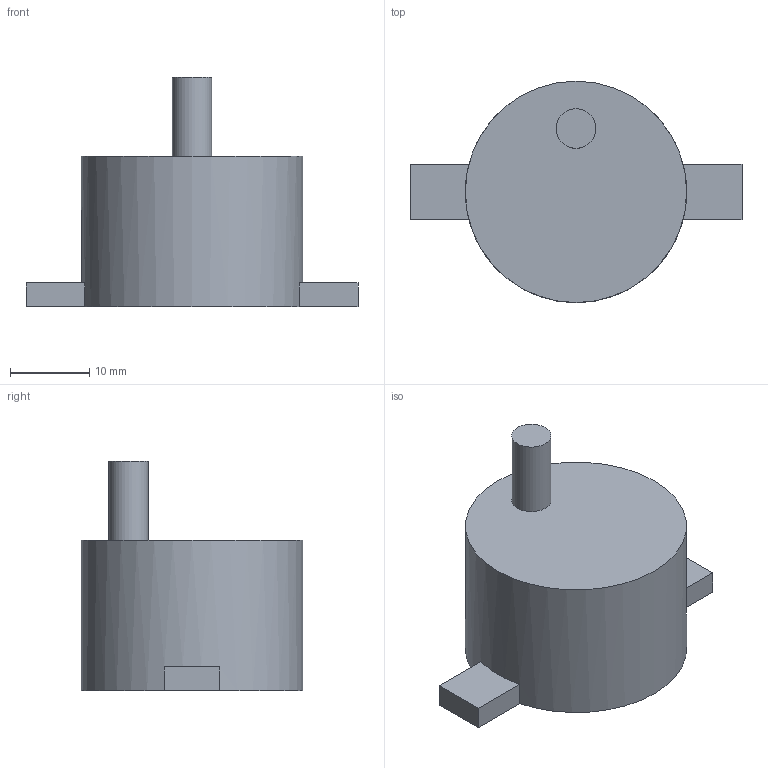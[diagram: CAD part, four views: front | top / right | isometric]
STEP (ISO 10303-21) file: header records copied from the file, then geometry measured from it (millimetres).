
FILE_DESCRIPTION(('Open CASCADE Model'),'2;1');
FILE_NAME('Open CASCADE Shape Model','2026-09-10T23:36:53',('Author'),( 'Open CASCADE'),'Open CASCADE STEP processor 7.9','Open CASCADE 7.9' ,'Unknown');
FILE_SCHEMA(('AUTOMOTIVE_DESIGN { 1 0 10303 214 1 1 1 1 }'));
Length unit declared in the file: millimetre
Products named in the file (1): Open CASCADE STEP translator 7.9 9
Bounding box: 42 x 28 x 29 mm (x, y, z)
Volume: 12195.8 mm3; surface area: 3348.9 mm2
Topology: 1 solids, 1 shells, 13 faces, 30 edges, 20 vertices
Faces by surface type: plane 11, cylinder 2
Full cylindrical faces by diameter (mm): 5 x1, 28 x1
Entity records: 773 total; most frequent: CARTESIAN_POINT 150, DIRECTION 115, LINE 66, VECTOR 66, ORIENTED_EDGE 60, PCURVE 60, DEFINITIONAL_REPRESENTATION 60, EDGE_CURVE 30
